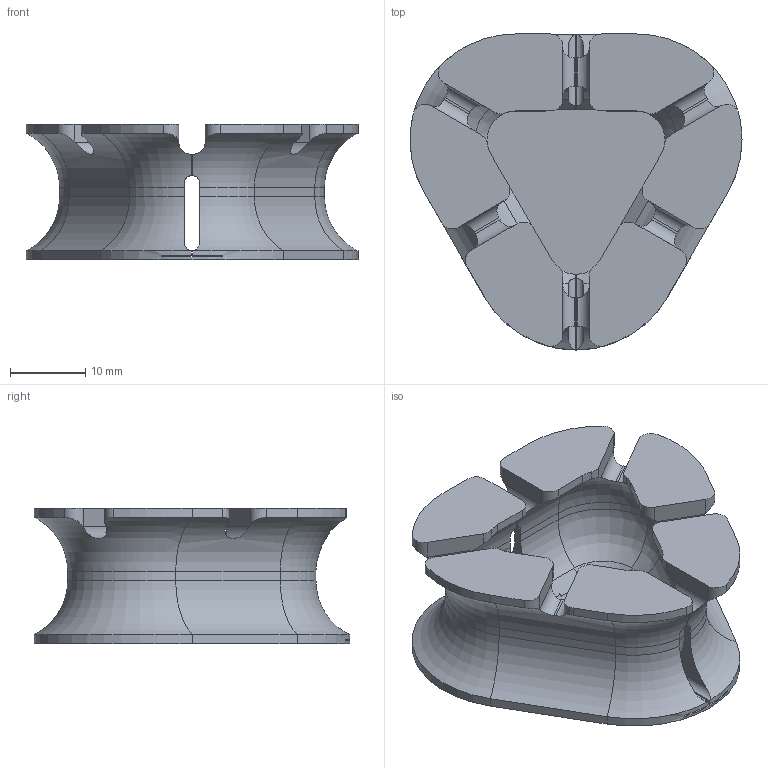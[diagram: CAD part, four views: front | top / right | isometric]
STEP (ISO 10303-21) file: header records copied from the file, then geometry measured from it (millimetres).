
FILE_DESCRIPTION (( 'STEP AP214' ), '1' );
FILE_NAME ('Earbud Case v1-4 SMALL - 3.5mm.STEP', '2018-04-27T23:13:43', ( '' ), ( '' ), 'SwSTEP 2.0', 'SolidWorks 2015', '' );
FILE_SCHEMA (( 'AUTOMOTIVE_DESIGN' ));
Length unit declared in the file: millimetre
Products named in the file (2): Earbud Case v1-4 SMALL - 3.5mm
Bounding box: 44 x 41.86 x 18 mm (x, y, z)
Volume: 7530 mm3; surface area: 7612 mm2
Topology: 1 solids, 1 shells, 203 faces, 539 edges, 338 vertices
Faces by surface type: cylinder 92, plane 79, torus 21, bspline 6, cone 5
Entity records: 7025 total; most frequent: CARTESIAN_POINT 2046, ORIENTED_EDGE 1078, DIRECTION 1000, EDGE_CURVE 539, AXIS2_PLACEMENT_3D 368, VERTEX_POINT 338, LINE 264, VECTOR 264
